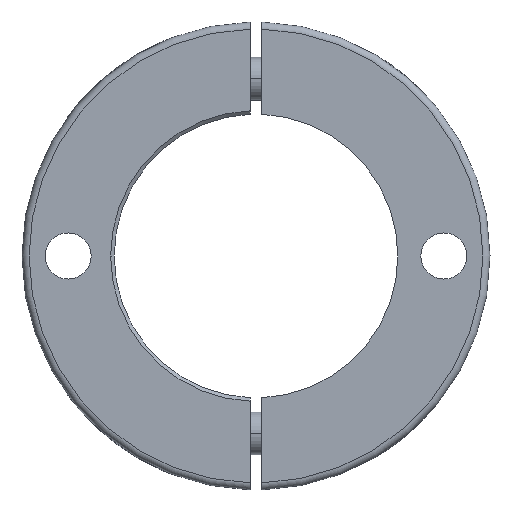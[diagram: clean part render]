
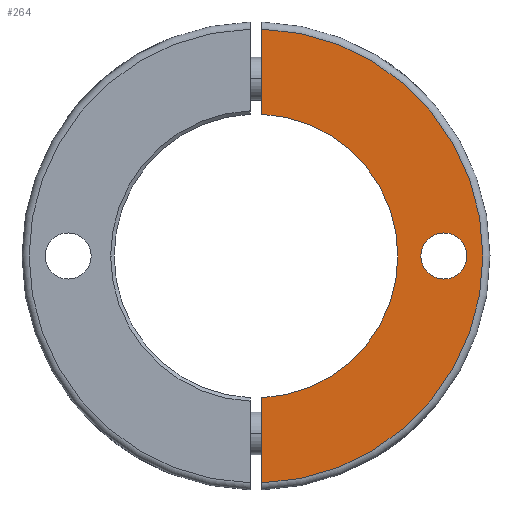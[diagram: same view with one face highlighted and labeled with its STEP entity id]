
A CAD part, left-side view. The second image highlights one B-rep face of the part: STEP entity #264.
In plain terms, the highlighted planar face has unit normal (-1, 0, 0).
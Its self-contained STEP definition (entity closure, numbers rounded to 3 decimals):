
#264 = ADVANCED_FACE( '', ( #405, #406 ), #407, .T. );
#405 = FACE_BOUND( '', #587, .T. );
#406 = FACE_OUTER_BOUND( '', #588, .T. );
#407 = PLANE( '', #589 );
#587 = EDGE_LOOP( '', ( #1030, #1031 ) );
#588 = EDGE_LOOP( '', ( #1032, #1033, #1034, #1035, #1036 ) );
#589 = AXIS2_PLACEMENT_3D( '', #1037, #1038, #1039 );
#1030 = ORIENTED_EDGE( '', *, *, #1396, .T. );
#1031 = ORIENTED_EDGE( '', *, *, #1392, .T. );
#1032 = ORIENTED_EDGE( '', *, *, #1411, .T. );
#1033 = ORIENTED_EDGE( '', *, *, #1417, .T. );
#1034 = ORIENTED_EDGE( '', *, *, #1402, .T. );
#1035 = ORIENTED_EDGE( '', *, *, #1367, .F. );
#1036 = ORIENTED_EDGE( '', *, *, #1416, .F. );
#1037 = CARTESIAN_POINT( '', ( -7.5, 26., 0. ) );
#1038 = DIRECTION( '', ( -1., 0., 0. ) );
#1039 = DIRECTION( '', ( 0., 1., 0. ) );
#1367 = EDGE_CURVE( '', #1604, #1607, #1608, .T. );
#1392 = EDGE_CURVE( '', #1654, #1651, #1655, .T. );
#1396 = EDGE_CURVE( '', #1651, #1654, #1660, .T. );
#1402 = EDGE_CURVE( '', #1666, #1607, #1667, .T. );
#1411 = EDGE_CURVE( '', #1676, #1681, #1683, .T. );
#1416 = EDGE_CURVE( '', #1676, #1604, #1688, .T. );
#1417 = EDGE_CURVE( '', #1681, #1666, #1689, .T. );
#1604 = VERTEX_POINT( '', #2192 );
#1607 = VERTEX_POINT( '', #2196 );
#1608 = CIRCLE( '', #2197, 20. );
#1651 = VERTEX_POINT( '', #2344 );
#1654 = VERTEX_POINT( '', #2348 );
#1655 = CIRCLE( '', #2349, 3.25 );
#1660 = CIRCLE( '', #2355, 3.25 );
#1666 = VERTEX_POINT( '', #2386 );
#1667 = LINE( '', #2387, #2388 );
#1676 = VERTEX_POINT( '', #2433 );
#1681 = VERTEX_POINT( '', #2457 );
#1683 = LINE( '', #2476, #2477 );
#1688 = CIRCLE( '', #2482, 20. );
#1689 = CIRCLE( '', #2483, 32. );
#2192 = CARTESIAN_POINT( '', ( -7.5, -20., 0. ) );
#2196 = CARTESIAN_POINT( '', ( -7.5, -0.8, 19.984 ) );
#2197 = AXIS2_PLACEMENT_3D( '', #2773, #2774, #2775 );
#2344 = CARTESIAN_POINT( '', ( -7.5, -26.5, -3.25 ) );
#2348 = CARTESIAN_POINT( '', ( -7.5, -26.5, 3.25 ) );
#2349 = AXIS2_PLACEMENT_3D( '', #2809, #2810, #2811 );
#2355 = AXIS2_PLACEMENT_3D( '', #2819, #2820, #2821 );
#2386 = CARTESIAN_POINT( '', ( -7.5, -0.8, 31.99 ) );
#2387 = CARTESIAN_POINT( '', ( -7.5, -0.8, 19. ) );
#2388 = VECTOR( '', #2834, 1. );
#2433 = CARTESIAN_POINT( '', ( -7.5, -0.8, -19.984 ) );
#2457 = CARTESIAN_POINT( '', ( -7.5, -0.8, -31.99 ) );
#2476 = CARTESIAN_POINT( '', ( -7.5, -0.8, 19. ) );
#2477 = VECTOR( '', #2839, 1. );
#2482 = AXIS2_PLACEMENT_3D( '', #2852, #2853, #2854 );
#2483 = AXIS2_PLACEMENT_3D( '', #2855, #2856, #2857 );
#2773 = CARTESIAN_POINT( '', ( -7.5, 0., 0. ) );
#2774 = DIRECTION( '', ( -1., 0., 0. ) );
#2775 = DIRECTION( '', ( 0., 1., 0. ) );
#2809 = CARTESIAN_POINT( '', ( -7.5, -26.5, 0. ) );
#2810 = DIRECTION( '', ( 1., 0., 0. ) );
#2811 = DIRECTION( '', ( 0., 0., -1. ) );
#2819 = CARTESIAN_POINT( '', ( -7.5, -26.5, 0. ) );
#2820 = DIRECTION( '', ( 1., 0., 0. ) );
#2821 = DIRECTION( '', ( 0., 0., -1. ) );
#2834 = DIRECTION( '', ( 0., 0., -1. ) );
#2839 = DIRECTION( '', ( 0., 0., -1. ) );
#2852 = CARTESIAN_POINT( '', ( -7.5, 0., 0. ) );
#2853 = DIRECTION( '', ( -1., 0., 0. ) );
#2854 = DIRECTION( '', ( 0., 1., 0. ) );
#2855 = CARTESIAN_POINT( '', ( -7.5, 0., 0. ) );
#2856 = DIRECTION( '', ( -1., 0., 0. ) );
#2857 = DIRECTION( '', ( 0., 1., 0. ) );
